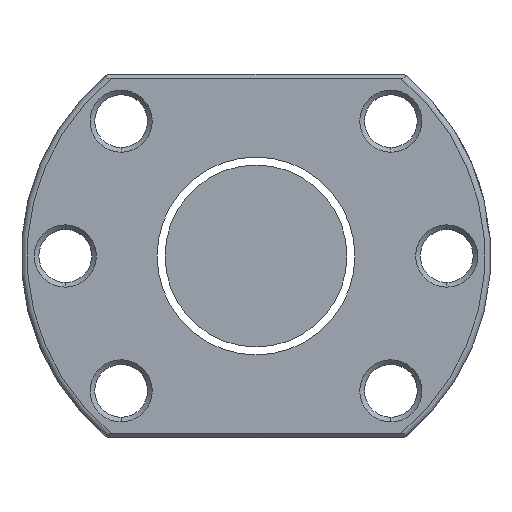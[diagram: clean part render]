
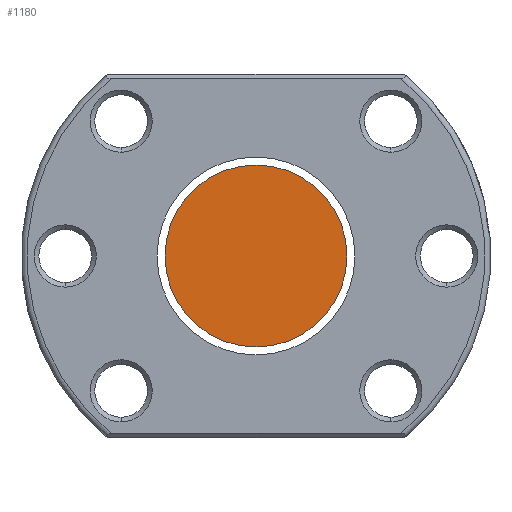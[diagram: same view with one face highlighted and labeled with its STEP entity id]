
A CAD part, left-side view. The second image highlights one B-rep face of the part: STEP entity #1180.
In plain terms, the highlighted planar face has unit normal (-1, 0, 0).
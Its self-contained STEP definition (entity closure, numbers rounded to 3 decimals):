
#175 = AXIS2_PLACEMENT_3D ( 'NONE', #5225, #1825, #4406 ) ;
#176 = CIRCLE ( 'NONE', #4768, 15.5 ) ;
#335 = VERTEX_POINT ( 'NONE', #4513 ) ;
#718 = VERTEX_POINT ( 'NONE', #2650 ) ;
#1177 = DIRECTION ( 'NONE',  ( 0., 0., -1. ) ) ;
#1180 = ADVANCED_FACE ( 'NONE', ( #4739 ), #5500, .T. ) ;
#1260 = CIRCLE ( 'NONE', #175, 15.5 ) ;
#1498 = EDGE_CURVE ( 'NONE', #335, #718, #176, .T. ) ;
#1524 = AXIS2_PLACEMENT_3D ( 'NONE', #1618, #4208, #1736 ) ;
#1618 = CARTESIAN_POINT ( 'NONE',  ( -300., 0., 0. ) ) ;
#1736 = DIRECTION ( 'NONE',  ( 0., 0., 1. ) ) ;
#1825 = DIRECTION ( 'NONE',  ( 1., 0., 0. ) ) ;
#2650 = CARTESIAN_POINT ( 'NONE',  ( -300., 0., 15.5 ) ) ;
#2886 = ORIENTED_EDGE ( 'NONE', *, *, #1498, .F. ) ;
#3407 = ORIENTED_EDGE ( 'NONE', *, *, #4069, .F. ) ;
#3542 = EDGE_LOOP ( 'NONE', ( #2886, #3407 ) ) ;
#3806 = DIRECTION ( 'NONE',  ( 1., 0., 0. ) ) ;
#4069 = EDGE_CURVE ( 'NONE', #718, #335, #1260, .T. ) ;
#4208 = DIRECTION ( 'NONE',  ( -1., 0., 0. ) ) ;
#4406 = DIRECTION ( 'NONE',  ( 0., 0., -1. ) ) ;
#4513 = CARTESIAN_POINT ( 'NONE',  ( -300., 0., -15.5 ) ) ;
#4739 = FACE_OUTER_BOUND ( 'NONE', #3542, .T. ) ;
#4768 = AXIS2_PLACEMENT_3D ( 'NONE', #5576, #3806, #1177 ) ;
#5225 = CARTESIAN_POINT ( 'NONE',  ( -300., 0., 0. ) ) ;
#5500 = PLANE ( 'NONE',  #1524 ) ;
#5576 = CARTESIAN_POINT ( 'NONE',  ( -300., 0., 0. ) ) ;
